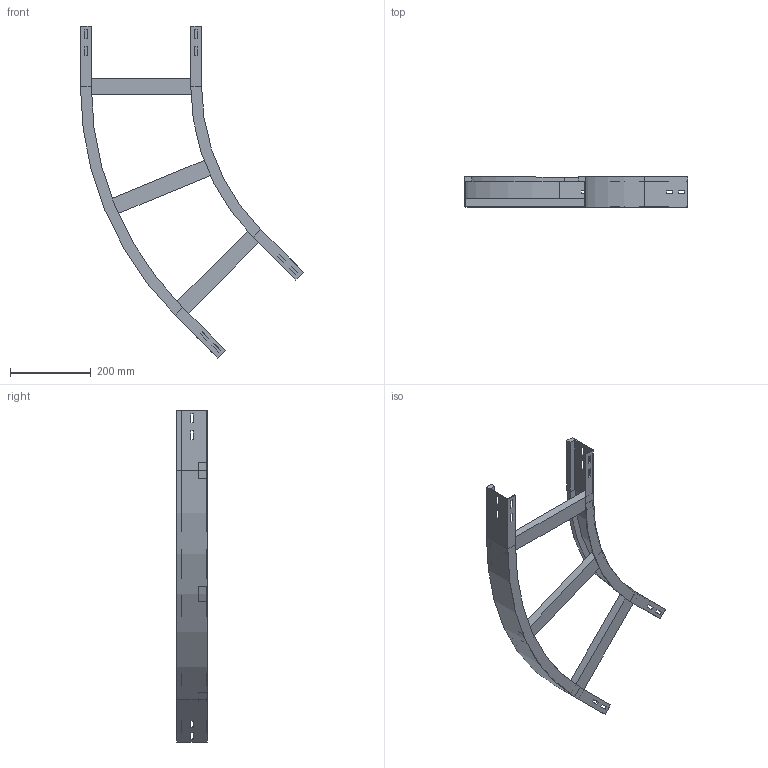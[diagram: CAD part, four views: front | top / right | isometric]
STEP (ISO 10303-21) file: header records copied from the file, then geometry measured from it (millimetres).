
FILE_DESCRIPTION (( 'STEP AP214' ), '1' );
FILE_NAME ('11B5C300.step', '2025-02-21T15:15:23', ( '' ), ( '' ), 'SwSTEP 2.0', 'SolidWorks 2023', '' );
FILE_SCHEMA (( 'AUTOMOTIVE_DESIGN' ));
Length unit declared in the file: millimetre
Products named in the file (4): TRAVERSINO_300; 11B5C300; A2_LONGH.INTERNO 45°_H75_R500; A2_LONGH.ESTERNO 45°_H75_R500+300
Assembly tree (5 placements, depth 2):
  11B5C300
    A2_LONGH.INTERNO 45°_H75_R500
    A2_LONGH.ESTERNO 45°_H75_R500+300
    TRAVERSINO_300  x3
Bounding box: 552.51 x 75 x 821.75 mm (x, y, z)
Volume: 1349790.9 mm3; surface area: 493364.2 mm2
Topology: 5 solids, 5 shells, 134 faces, 340 edges, 216 vertices
Faces by surface type: plane 126, cylinder 8
Entity records: 3821 total; most frequent: CARTESIAN_POINT 646, ORIENTED_EDGE 632, DIRECTION 592, EDGE_CURVE 316, VECTOR 300, LINE 300, VERTEX_POINT 200, EDGE_LOOP 154
